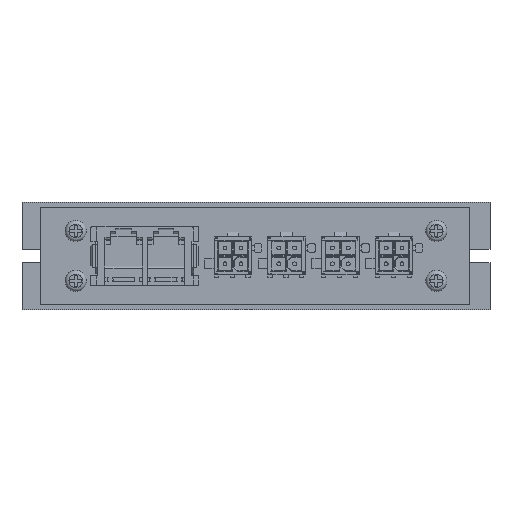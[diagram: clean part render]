
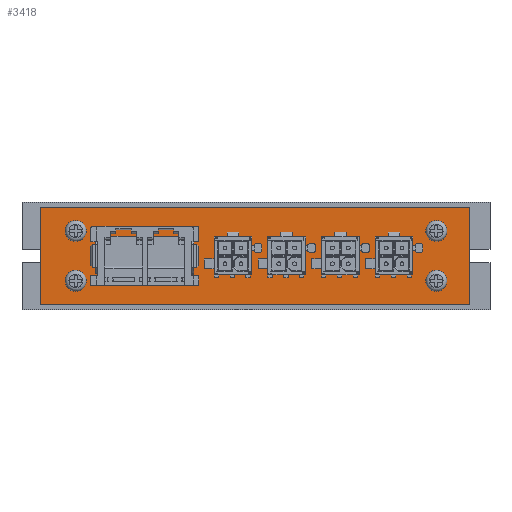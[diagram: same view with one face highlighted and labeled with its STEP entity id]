
A CAD part, top view. The second image highlights one B-rep face of the part: STEP entity #3418.
In plain terms, the highlighted planar face has unit normal (0, 0, 1).
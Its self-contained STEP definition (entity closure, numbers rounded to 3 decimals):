
#3104 = VERTEX_POINT('',#3105);
#3105 = CARTESIAN_POINT('',(0.,12.75,1.6));
#3112 = PLANE('',#3113);
#3113 = AXIS2_PLACEMENT_3D('',#3114,#3115,#3116);
#3114 = CARTESIAN_POINT('',(0.,12.75,0.));
#3115 = DIRECTION('',(0.,1.,0.));
#3116 = DIRECTION('',(1.,0.,0.));
#3124 = PLANE('',#3125);
#3125 = AXIS2_PLACEMENT_3D('',#3126,#3127,#3128);
#3126 = CARTESIAN_POINT('',(0.,-12.75,0.));
#3127 = DIRECTION('',(-1.,0.,0.));
#3128 = DIRECTION('',(0.,1.,0.));
#3136 = EDGE_CURVE('',#3104,#3137,#3139,.T.);
#3137 = VERTEX_POINT('',#3138);
#3138 = CARTESIAN_POINT('',(112.,12.75,1.6));
#3139 = SURFACE_CURVE('',#3140,(#3144,#3151),.PCURVE_S1.);
#3140 = LINE('',#3141,#3142);
#3141 = CARTESIAN_POINT('',(0.,12.75,1.6));
#3142 = VECTOR('',#3143,1.);
#3143 = DIRECTION('',(1.,0.,0.));
#3144 = PCURVE('',#3112,#3145);
#3145 = DEFINITIONAL_REPRESENTATION('',(#3146),#3150);
#3146 = LINE('',#3147,#3148);
#3147 = CARTESIAN_POINT('',(0.,-1.6));
#3148 = VECTOR('',#3149,1.);
#3149 = DIRECTION('',(1.,0.));
#3150 = ( GEOMETRIC_REPRESENTATION_CONTEXT(2) 
PARAMETRIC_REPRESENTATION_CONTEXT() REPRESENTATION_CONTEXT('2D SPACE',''
  ) );
#3151 = PCURVE('',#3152,#3157);
#3152 = PLANE('',#3153);
#3153 = AXIS2_PLACEMENT_3D('',#3154,#3155,#3156);
#3154 = CARTESIAN_POINT('',(56.,0.,1.6));
#3155 = DIRECTION('',(-0.,-0.,-1.));
#3156 = DIRECTION('',(-1.,0.,0.));
#3157 = DEFINITIONAL_REPRESENTATION('',(#3158),#3162);
#3158 = LINE('',#3159,#3160);
#3159 = CARTESIAN_POINT('',(56.,12.75));
#3160 = VECTOR('',#3161,1.);
#3161 = DIRECTION('',(-1.,0.));
#3162 = ( GEOMETRIC_REPRESENTATION_CONTEXT(2) 
PARAMETRIC_REPRESENTATION_CONTEXT() REPRESENTATION_CONTEXT('2D SPACE',''
  ) );
#3180 = PLANE('',#3181);
#3181 = AXIS2_PLACEMENT_3D('',#3182,#3183,#3184);
#3182 = CARTESIAN_POINT('',(112.,12.75,0.));
#3183 = DIRECTION('',(1.,0.,0.));
#3184 = DIRECTION('',(0.,-1.,0.));
#3222 = EDGE_CURVE('',#3137,#3223,#3225,.T.);
#3223 = VERTEX_POINT('',#3224);
#3224 = CARTESIAN_POINT('',(112.,-12.75,1.6));
#3225 = SURFACE_CURVE('',#3226,(#3230,#3237),.PCURVE_S1.);
#3226 = LINE('',#3227,#3228);
#3227 = CARTESIAN_POINT('',(112.,12.75,1.6));
#3228 = VECTOR('',#3229,1.);
#3229 = DIRECTION('',(0.,-1.,0.));
#3230 = PCURVE('',#3180,#3231);
#3231 = DEFINITIONAL_REPRESENTATION('',(#3232),#3236);
#3232 = LINE('',#3233,#3234);
#3233 = CARTESIAN_POINT('',(0.,-1.6));
#3234 = VECTOR('',#3235,1.);
#3235 = DIRECTION('',(1.,0.));
#3236 = ( GEOMETRIC_REPRESENTATION_CONTEXT(2) 
PARAMETRIC_REPRESENTATION_CONTEXT() REPRESENTATION_CONTEXT('2D SPACE',''
  ) );
#3237 = PCURVE('',#3152,#3238);
#3238 = DEFINITIONAL_REPRESENTATION('',(#3239),#3243);
#3239 = LINE('',#3240,#3241);
#3240 = CARTESIAN_POINT('',(-56.,12.75));
#3241 = VECTOR('',#3242,1.);
#3242 = DIRECTION('',(0.,-1.));
#3243 = ( GEOMETRIC_REPRESENTATION_CONTEXT(2) 
PARAMETRIC_REPRESENTATION_CONTEXT() REPRESENTATION_CONTEXT('2D SPACE',''
  ) );
#3261 = PLANE('',#3262);
#3262 = AXIS2_PLACEMENT_3D('',#3263,#3264,#3265);
#3263 = CARTESIAN_POINT('',(112.,-12.75,0.));
#3264 = DIRECTION('',(0.,-1.,0.));
#3265 = DIRECTION('',(-1.,0.,0.));
#3298 = EDGE_CURVE('',#3223,#3299,#3301,.T.);
#3299 = VERTEX_POINT('',#3300);
#3300 = CARTESIAN_POINT('',(0.,-12.75,1.6));
#3301 = SURFACE_CURVE('',#3302,(#3306,#3313),.PCURVE_S1.);
#3302 = LINE('',#3303,#3304);
#3303 = CARTESIAN_POINT('',(112.,-12.75,1.6));
#3304 = VECTOR('',#3305,1.);
#3305 = DIRECTION('',(-1.,0.,0.));
#3306 = PCURVE('',#3261,#3307);
#3307 = DEFINITIONAL_REPRESENTATION('',(#3308),#3312);
#3308 = LINE('',#3309,#3310);
#3309 = CARTESIAN_POINT('',(0.,-1.6));
#3310 = VECTOR('',#3311,1.);
#3311 = DIRECTION('',(1.,0.));
#3312 = ( GEOMETRIC_REPRESENTATION_CONTEXT(2) 
PARAMETRIC_REPRESENTATION_CONTEXT() REPRESENTATION_CONTEXT('2D SPACE',''
  ) );
#3313 = PCURVE('',#3152,#3314);
#3314 = DEFINITIONAL_REPRESENTATION('',(#3315),#3319);
#3315 = LINE('',#3316,#3317);
#3316 = CARTESIAN_POINT('',(-56.,-12.75));
#3317 = VECTOR('',#3318,1.);
#3318 = DIRECTION('',(1.,0.));
#3319 = ( GEOMETRIC_REPRESENTATION_CONTEXT(2) 
PARAMETRIC_REPRESENTATION_CONTEXT() REPRESENTATION_CONTEXT('2D SPACE',''
  ) );
#3369 = EDGE_CURVE('',#3299,#3104,#3370,.T.);
#3370 = SURFACE_CURVE('',#3371,(#3375,#3382),.PCURVE_S1.);
#3371 = LINE('',#3372,#3373);
#3372 = CARTESIAN_POINT('',(0.,-12.75,1.6));
#3373 = VECTOR('',#3374,1.);
#3374 = DIRECTION('',(0.,1.,0.));
#3375 = PCURVE('',#3124,#3376);
#3376 = DEFINITIONAL_REPRESENTATION('',(#3377),#3381);
#3377 = LINE('',#3378,#3379);
#3378 = CARTESIAN_POINT('',(0.,-1.6));
#3379 = VECTOR('',#3380,1.);
#3380 = DIRECTION('',(1.,0.));
#3381 = ( GEOMETRIC_REPRESENTATION_CONTEXT(2) 
PARAMETRIC_REPRESENTATION_CONTEXT() REPRESENTATION_CONTEXT('2D SPACE',''
  ) );
#3382 = PCURVE('',#3152,#3383);
#3383 = DEFINITIONAL_REPRESENTATION('',(#3384),#3388);
#3384 = LINE('',#3385,#3386);
#3385 = CARTESIAN_POINT('',(56.,-12.75));
#3386 = VECTOR('',#3387,1.);
#3387 = DIRECTION('',(0.,1.));
#3388 = ( GEOMETRIC_REPRESENTATION_CONTEXT(2) 
PARAMETRIC_REPRESENTATION_CONTEXT() REPRESENTATION_CONTEXT('2D SPACE',''
  ) );
#3418 = ADVANCED_FACE('',(#3419),#3152,.F.);
#3419 = FACE_BOUND('',#3420,.F.);
#3420 = EDGE_LOOP('',(#3421,#3422,#3423,#3424));
#3421 = ORIENTED_EDGE('',*,*,#3136,.T.);
#3422 = ORIENTED_EDGE('',*,*,#3222,.T.);
#3423 = ORIENTED_EDGE('',*,*,#3298,.T.);
#3424 = ORIENTED_EDGE('',*,*,#3369,.T.);
